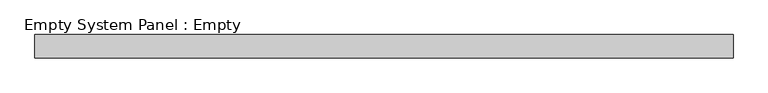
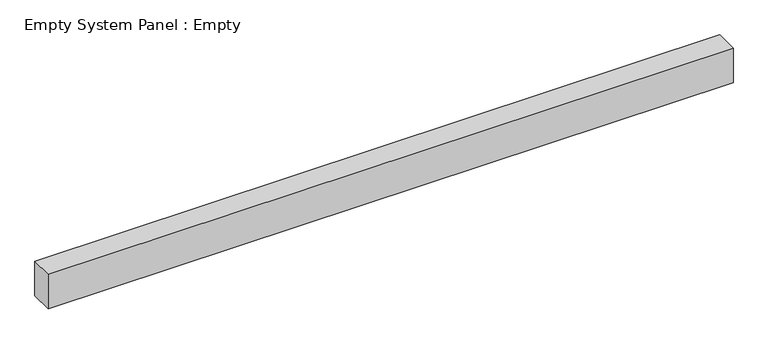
"""IFC4 building model written with IfcOpenShell, lengths in millimetres: plate geometry, Empty System Panel : Empty."""

from ifc_helpers import new_model, si_unit, origin, origin_with_axes, place, context, project, spatial, polyline, outline, extrude, source, transform, mapped, element, save


def empty_system_panel_empty_89002ebc(model_context):
    return source(origin(), model_context, "Body", "SweptSolid", [
        extrude(outline(polyline([(1500.0, 50.0), (-1500.0, 50.0), (-1500.0, 150.0), (1500.0, 150.0), (1500.0, 50.0)])), origin_with_axes(), (0.0, 0.0, 1.0), 160.0),
    ])


if __name__ == "__main__":
    model = new_model("IFC4")
    model_context = context("Model", 3, world=origin())
    ifc_project = project(units=[si_unit("LENGTHUNIT", "METRE", prefix="MILLI")], contexts=[model_context])
    site = spatial("IfcSite", under=ifc_project)
    building = spatial("IfcBuilding", under=site)
    placement = place(None, origin())
    empty_system_panel_empty_shape = empty_system_panel_empty_89002ebc(model_context)
    element("IfcPlate", 1, ObjectType="Empty System Panel : Empty", at=placement, inside=building, context=model_context, shape_type="MappedRepresentation", body=[
        mapped(empty_system_panel_empty_shape, transform((0.0, 0.0, 0.0), x_axis=(1.0, 0.0, 0.0), y_axis=(0.0, 1.0, 0.0), z_axis=(0.0, 0.0, 1.0))),
    ])
    save(model, "model.ifc")
